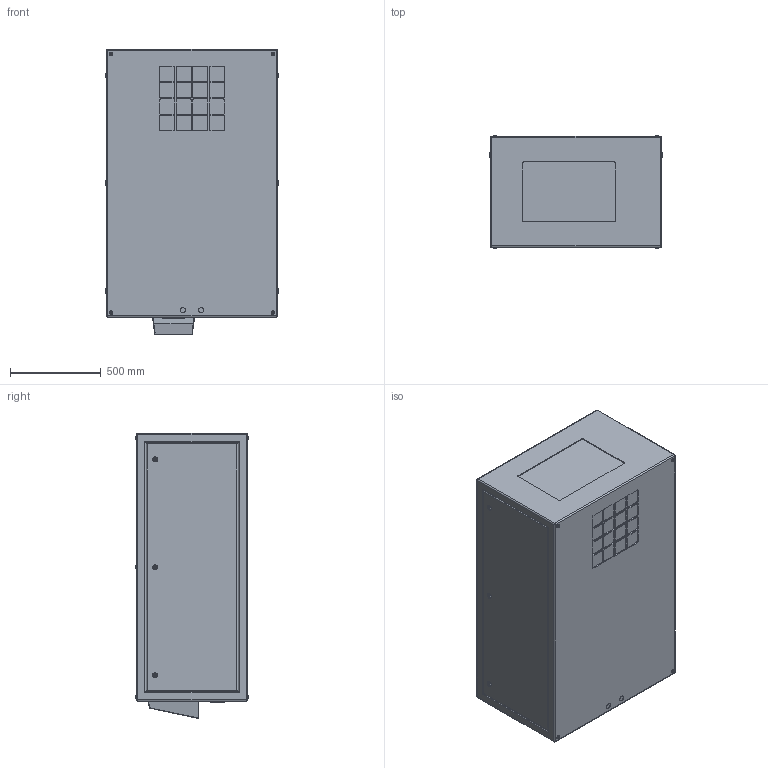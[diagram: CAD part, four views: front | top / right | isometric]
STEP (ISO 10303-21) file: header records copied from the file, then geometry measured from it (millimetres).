
FILE_DESCRIPTION (( 'STEP AP214' ), '1' );
FILE_NAME ('Cyclone 55.514.L R10.STEP', '2022-09-08T22:07:08', ( '' ), ( '' ), 'SwSTEP 2.0', 'SolidWorks 2020', '' );
FILE_SCHEMA (( 'AUTOMOTIVE_DESIGN' ));
Length unit declared in the file: inch
Products named in the file (1): Cyclone 55.514.L R10
Bounding box: 952.5 x 624.2 x 1568.45 mm (x, y, z)
Volume: 842303274.8 mm3; surface area: 6204437.8 mm2
Topology: 1 solids, 7 shells, 532 faces, 1256 edges, 804 vertices
Faces by surface type: plane 260, cylinder 220, torus 44, sphere 8
Entity records: 19357 total; most frequent: CARTESIAN_POINT 3161, DIRECTION 2694, ORIENTED_EDGE 2496, EDGE_CURVE 1248, AXIS2_PLACEMENT_3D 1009, VERTEX_POINT 804, VECTOR 676, LINE 676
